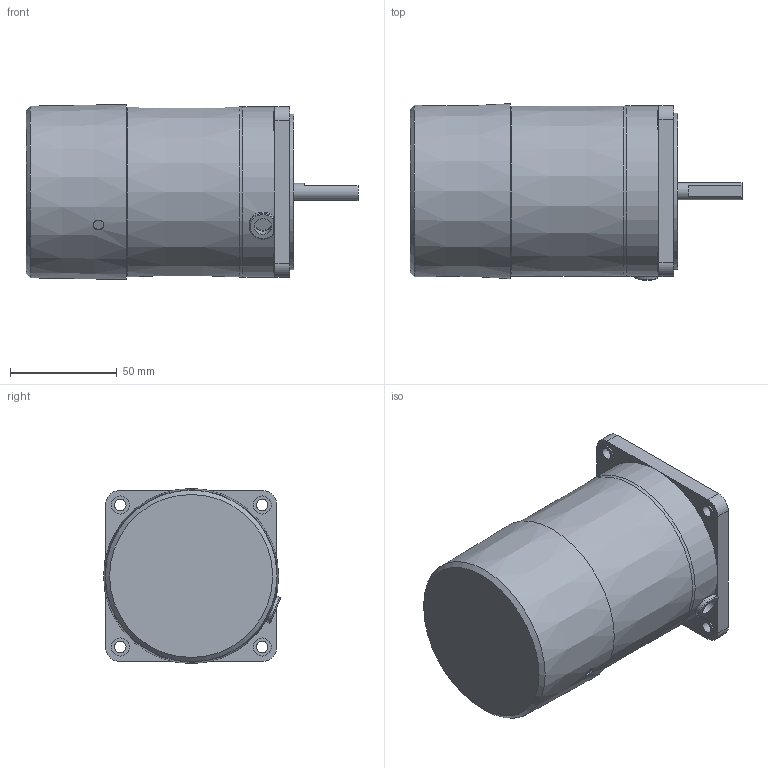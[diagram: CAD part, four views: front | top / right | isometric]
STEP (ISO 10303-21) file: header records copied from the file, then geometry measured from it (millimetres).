
FILE_DESCRIPTION((''),'2;1');
FILE_NAME('\\Spgrnd02\고객배포용도면\3D\01 Standard AC Motor\03 ELECTROMAGNETIC BRAKE MOTOR\03_815_BK\S8R15(25)D-E_R01.stp','2015-03-23T18:02:09',('smkim'),(''),'Autodesk Inventor 2012','Autodesk Inventor 2012','');
FILE_SCHEMA(('AUTOMOTIVE_DESIGN { 1 0 10303 214 1 1 1 1 }'));
Length unit declared in the file: millimetre
Products named in the file (1): S8R15(25)D-E
Bounding box: 155.5 x 82.79 x 82 mm (x, y, z)
Volume: 630653.6 mm3; surface area: 48206.8 mm2
Topology: 1 solids, 2 shells, 87 faces, 197 edges, 129 vertices
Faces by surface type: plane 50, cylinder 32, cone 3, torus 2
Full cylindrical faces by diameter (mm): 5 x1, 5.5 x4, 8 x2, 8.5 x4, 34 x1, 73 x1, 78 x1, 80 x1
Entity records: 2538 total; most frequent: CARTESIAN_POINT 479, DIRECTION 420, ORIENTED_EDGE 350, EDGE_CURVE 175, AXIS2_PLACEMENT_3D 163, EDGE_LOOP 129, VERTEX_POINT 126, VECTOR 94
